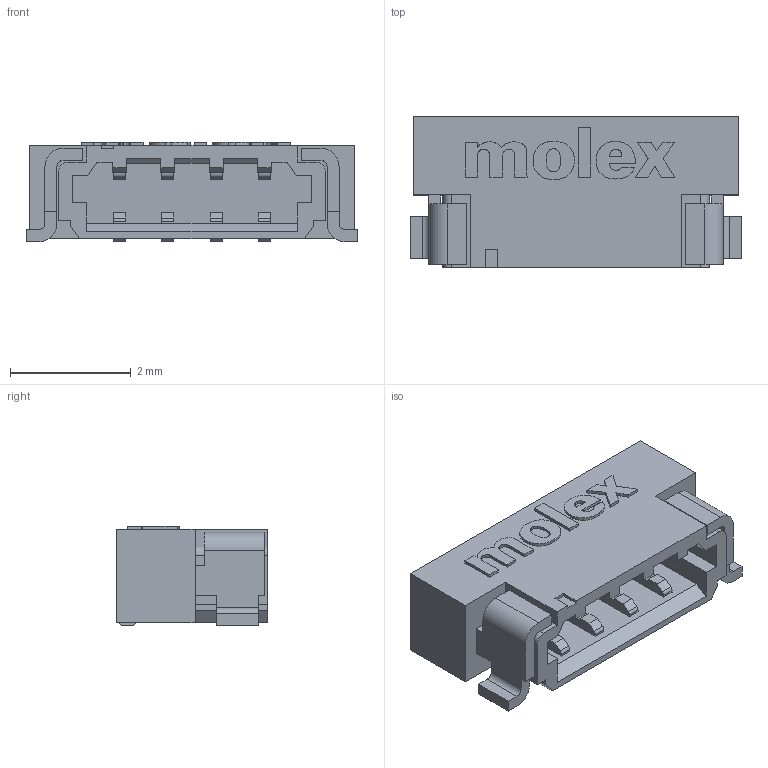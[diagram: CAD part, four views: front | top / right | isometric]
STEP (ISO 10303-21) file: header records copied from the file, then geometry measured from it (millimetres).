
FILE_DESCRIPTION(/* description */ (''),/* implementation_level */ '2;1');
FILE_NAME(/* name */ 'METUPowerLab_Connectors_SignalConnectors_2147210040.step',/* time_stamp */ '2025-07-22T15:45:27+03:00',/* author */ (''),/* organization */ (''),/* preprocessor_version */ 'ST-DEVELOPER v20.1',/* originating_system */ 'Autodesk Translation Framework v14.10.0.0',/* authorisation */ '');
FILE_SCHEMA (('AUTOMOTIVE_DESIGN { 1 0 10303 214 3 1 1 }'));
Length unit declared in the file: millimetre
Products named in the file (1): 2147210040wbm000_02
Bounding box: 5.48 x 2.5 x 1.65 mm (x, y, z)
Volume: 13.8 mm3; surface area: 81.1 mm2
Topology: 1 solids, 1 shells, 363 faces, 1053 edges, 702 vertices
Faces by surface type: plane 261, bspline 76, cylinder 26
Entity records: 12178 total; most frequent: CARTESIAN_POINT 3107, ORIENTED_EDGE 2106, DIRECTION 1529, EDGE_CURVE 1053, LINE 849, VECTOR 849, VERTEX_POINT 702, EDGE_LOOP 373
